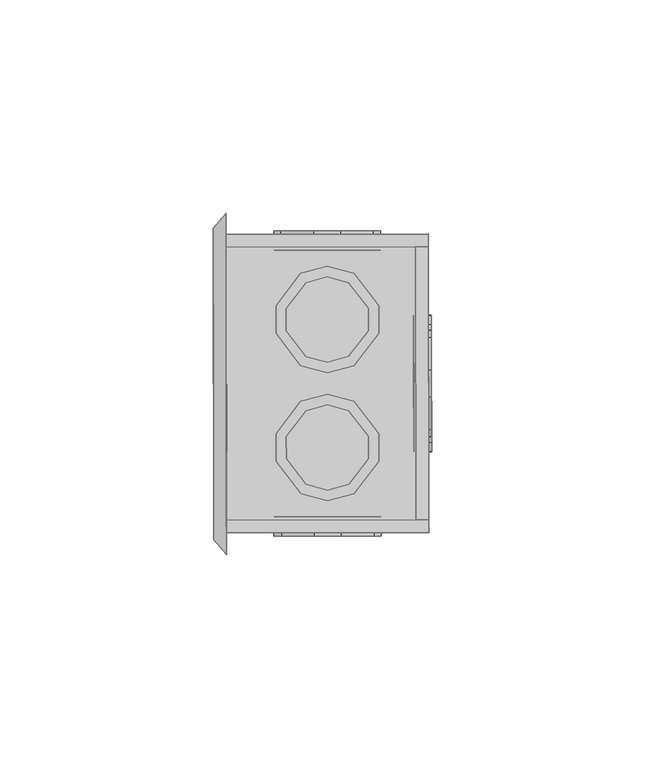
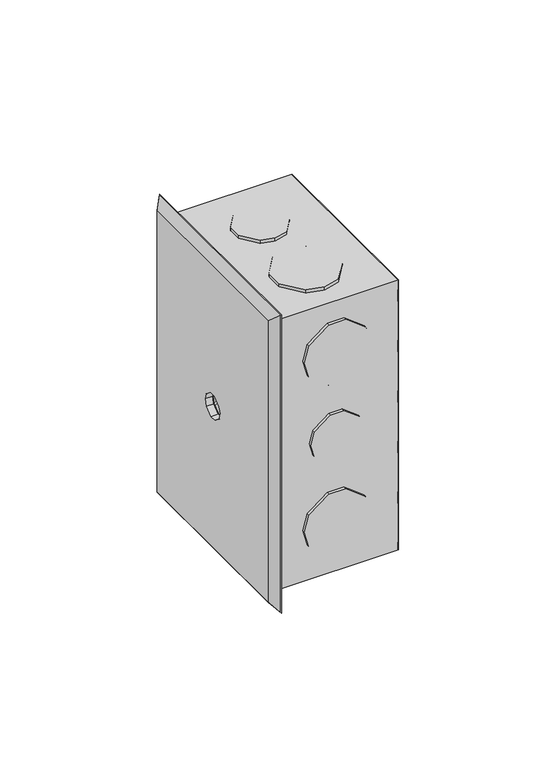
"""IFC4 building model written with IfcOpenShell, lengths in millimetres: proxy geometry,  211191 :  211191."""

from ifc_helpers import new_model, si_unit, origin, place, context, project, spatial, triangles, source, transform, mapped, element, save


def generic_models_196c6b88(model_context):
    return source(origin(), model_context, "Body", "Tessellation", [
        triangles([(14634.9555359, 33573.0670166, 1749.1000683), (14629.9535156, 33574.3994934, 1749.1000683), (14639.6285065, 33561.8235168, 1749.1000683), (14639.6226929, 33566.9999451, 1749.1000683), (14634.9776276, 33555.7471436, 1749.1000683), (14629.9802582, 33554.4007141, 1749.1000683), (14624.9549835, 33573.053064, 1749.1000683), (14620.3041046, 33566.9766907, 1749.1000683), (14620.3110809, 33561.797937, 1749.1000683), (14624.9782379, 33555.7331909, 1749.1000683), (14636.191507, 33583.5826538, 1749.1000683), (14636.162439, 33605.2324951, 1749.1000683), (14623.6922699, 33583.5663757, 1749.1000683), (14641.9969666, 33597.6515625, 1749.1000683), (14642.0062683, 33591.1798645, 1749.1000683), (14629.910495, 33606.8998352, 1749.1000683), (14623.6632019, 33605.216217, 1749.1000683), (14617.8484406, 33597.6190063, 1749.1000683), (14629.9442139, 33581.8990356, 1749.1000683), (14617.8577423, 33591.1496338, 1749.1000683), (14629.9802582, 33554.4007141, 1744.8000401), (14620.3041046, 33566.9766907, 1744.8000401), (14629.9535156, 33574.3994934, 1744.8000401), (14620.3110809, 33561.797937, 1744.8000401), (14624.9782379, 33555.7331909, 1744.8000401), (14624.9549835, 33573.053064, 1744.8000401), (14634.9555359, 33573.0670166, 1744.8000401), (14639.6226929, 33566.9999451, 1744.8000401), (14639.6285065, 33561.8235168, 1744.8000401), (14634.9776276, 33555.7471436, 1744.8000401), (14636.162439, 33605.2324951, 1744.8000401), (14623.6922699, 33583.5663757, 1744.8000401), (14617.8484406, 33597.6190063, 1744.8000401), (14617.8577423, 33591.1496338, 1744.8000401), (14629.9442139, 33581.8990356, 1744.8000401), (14636.191507, 33583.5826538, 1744.8000401), (14623.6632019, 33605.216217, 1744.8000401), (14641.9969666, 33597.6515625, 1744.8000401), (14642.0062683, 33591.1798645, 1744.8000401), (14629.910495, 33606.8998352, 1744.8000401), (14636.2031342, 33575.2320007, 1855.1999874), (14629.9500275, 33576.8993408, 1855.1999874), (14642.036499, 33567.6510681, 1855.1999874), (14636.2310394, 33553.5821594, 1855.1999874), (14642.0446381, 33561.1816956, 1855.1999874), (14623.7027344, 33575.2180481, 1855.1999874), (14617.887973, 33567.618512, 1855.1999874), (14623.7306396, 33553.5658813, 1855.1999874), (14629.9825836, 33551.9008667, 1855.1999874), (14617.8972748, 33561.1491394, 1855.1999874), (14639.5901367, 33591.8240112, 1855.1999874), (14634.9160034, 33603.067511, 1855.1999874), (14624.915451, 33603.0535583, 1855.1999874), (14639.5831604, 33597.0004395, 1855.1999874), (14634.9392578, 33585.7453125, 1855.1999874), (14629.9407257, 33584.3988831, 1855.1999874), (14629.9139832, 33604.3999878, 1855.1999874), (14620.2645721, 33596.9748596, 1855.1999874), (14620.2715485, 33591.7984314, 1855.1999874), (14624.9387054, 33585.7336853, 1855.1999874), (14617.887973, 33567.618512, 1850.9999531), (14623.7027344, 33575.2180481, 1850.9999531), (14623.7306396, 33553.5658813, 1850.9999531), (14617.8972748, 33561.1491394, 1850.9999531), (14629.9825836, 33551.9008667, 1850.9999531), (14636.2310394, 33553.5821594, 1850.9999531), (14629.9500275, 33576.8993408, 1850.9999531), (14636.2031342, 33575.2320007, 1850.9999531), (14642.036499, 33567.6510681, 1850.9999531), (14642.0446381, 33561.1816956, 1850.9999531), (14639.5901367, 33591.8240112, 1850.9999531), (14620.2715485, 33591.7984314, 1850.9999531), (14620.2645721, 33596.9748596, 1850.9999531), (14624.9387054, 33585.7336853, 1850.9999531), (14629.9407257, 33584.3988831, 1850.9999531), (14624.915451, 33603.0535583, 1850.9999531), (14634.9160034, 33603.067511, 1850.9999531), (14634.9392578, 33585.7453125, 1850.9999531), (14639.5831604, 33597.0004395, 1850.9999531), (14629.9139832, 33604.3999878, 1850.9999531), (14633.1358795, 33615.2039795, 1846.0739456), (14640.7261139, 33615.2132812, 1840.2500278), (14626.6653442, 33615.1970032, 1846.0739456), (14633.1358795, 33615.2039795, 1821.926001), (14619.0751099, 33615.185376, 1840.2500278), (14617.3996307, 33615.1830505, 1833.9999733), (14642.4004303, 33615.2156067, 1833.9999733), (14640.7261139, 33615.2132812, 1827.7500641), (14619.0751099, 33615.185376, 1827.7500641), (14626.6653442, 33615.1970032, 1821.926001), (14619.8994781, 33615.1877014, 1800.0000137), (14632.4882446, 33615.2039795, 1809.6590172), (14639.8994202, 33615.2132812, 1800.0000137), (14627.3118164, 33615.1970032, 1809.6590172), (14621.240094, 33615.1900269, 1804.9999992), (14638.5611298, 33615.2109558, 1804.9999992), (14638.5611298, 33615.2109558, 1795.0000282), (14632.4882446, 33615.2039795, 1790.3410103), (14621.240094, 33615.1900269, 1795.0000282), (14627.3118164, 33615.1970032, 1790.3410103), (14619.0751099, 33615.185376, 1772.2499634), (14633.1358795, 33615.2039795, 1778.0740265), (14642.4004303, 33615.2156067, 1766.0000542), (14626.6653442, 33615.1970032, 1778.0740265), (14617.3996307, 33615.1830505, 1766.0000542), (14619.0751099, 33615.185376, 1759.7499996), (14640.7261139, 33615.2132812, 1772.2499634), (14640.7261139, 33615.2132812, 1759.7499996), (14626.6653442, 33615.1970032, 1753.9259365), (14633.1358795, 33615.2039795, 1753.9259365), (14640.7319275, 33610.613562, 1827.7500641), (14642.4062439, 33610.6158875, 1833.9999733), (14633.1416931, 33610.6042603, 1821.926001), (14619.0809235, 33610.5856567, 1827.7500641), (14626.6711578, 33610.5949585, 1821.926001), (14617.4054443, 33610.5833313, 1833.9999733), (14626.6711578, 33610.5949585, 1846.0739456), (14640.7319275, 33610.613562, 1840.2500278), (14633.1416931, 33610.6042603, 1846.0739456), (14619.0809235, 33610.5856567, 1840.2500278), (14638.5669434, 33610.6112366, 1795.0000282), (14639.9063965, 33610.613562, 1800.0000137), (14621.2459076, 33610.5879822, 1795.0000282), (14632.4940582, 33610.6019348, 1790.3410103), (14627.31763, 33610.5972839, 1790.3410103), (14619.9064545, 33610.5879822, 1800.0000137), (14632.4940582, 33610.6019348, 1809.6590172), (14627.31763, 33610.5972839, 1809.6590172), (14621.2459076, 33610.5879822, 1804.9999992), (14638.5669434, 33610.6112366, 1804.9999992), (14640.7319275, 33610.613562, 1759.7499996), (14642.4062439, 33610.6158875, 1766.0000542), (14619.0809235, 33610.5856567, 1759.7499996), (14626.6711578, 33610.5949585, 1753.9259365), (14633.1416931, 33610.6042603, 1753.9259365), (14640.7319275, 33610.613562, 1772.2499634), (14619.0809235, 33610.5856567, 1772.2499634), (14633.1416931, 33610.6042603, 1778.0740265), (14617.4054443, 33610.5833313, 1766.0000542), (14626.6711578, 33610.5949585, 1778.0740265), (14633.2288971, 33543.6036987, 1821.926001), (14640.8191315, 33543.6130005, 1827.7500641), (14626.7595245, 33543.5967224, 1821.926001), (14633.2288971, 33543.6036987, 1846.0739456), (14619.1692902, 33543.5850952, 1827.7500641), (14617.493811, 33543.5850952, 1833.9999733), (14642.4934479, 33543.6153259, 1833.9999733), (14640.8191315, 33543.6130005, 1840.2500278), (14619.1692902, 33543.5850952, 1840.2500278), (14626.7595245, 33543.5967224, 1846.0739456), (14619.9936584, 33543.5874207, 1800.0000137), (14632.5824249, 33543.6036987, 1790.3410103), (14632.5824249, 33543.6036987, 1809.6590172), (14621.3342743, 33543.5897461, 1795.0000282), (14627.4059967, 33543.5967224, 1790.3410103), (14638.6541473, 33543.610675, 1795.0000282), (14639.9936005, 33543.6130005, 1800.0000137), (14638.6541473, 33543.610675, 1804.9999992), (14627.4059967, 33543.5967224, 1809.6590172), (14621.3342743, 33543.5897461, 1804.9999992), (14633.2288971, 33543.6036987, 1753.9259365), (14640.8191315, 33543.6130005, 1759.7499996), (14626.7595245, 33543.5967224, 1753.9259365), (14617.493811, 33543.5850952, 1766.0000542), (14619.1692902, 33543.5850952, 1759.7499996), (14619.1692902, 33543.5850952, 1772.2499634), (14640.8191315, 33543.6130005, 1772.2499634), (14633.2288971, 33543.6036987, 1778.0740265), (14626.7595245, 33543.5967224, 1778.0740265), (14642.4934479, 33543.6153259, 1766.0000542), (14640.8133179, 33548.2150452, 1840.2500278), (14642.4876343, 33548.2150452, 1833.9999733), (14633.2230835, 33548.203418, 1846.0739456), (14619.1634766, 33548.1871399, 1840.2500278), (14626.7525482, 33548.1964417, 1846.0739456), (14617.4879974, 33548.1848145, 1833.9999733), (14626.7525482, 33548.1964417, 1821.926001), (14640.8133179, 33548.2150452, 1827.7500641), (14633.2230835, 33548.203418, 1821.926001), (14619.1634766, 33548.1871399, 1827.7500641), (14632.5754486, 33548.203418, 1809.6590172), (14638.6483337, 33548.2103943, 1804.9999992), (14632.5754486, 33548.203418, 1790.3410103), (14627.4001831, 33548.1964417, 1809.6590172), (14619.9878448, 33548.1871399, 1800.0000137), (14621.3284607, 33548.1894653, 1804.9999992), (14639.9877869, 33548.2127197, 1800.0000137), (14621.3284607, 33548.1894653, 1795.0000282), (14627.4001831, 33548.1964417, 1790.3410103), (14638.6483337, 33548.2103943, 1795.0000282), (14633.2230835, 33548.203418, 1778.0740265), (14640.8133179, 33548.2150452, 1772.2499634), (14626.7525482, 33548.1964417, 1753.9259365), (14619.1634766, 33548.1871399, 1772.2499634), (14626.7525482, 33548.1964417, 1778.0740265), (14640.8133179, 33548.2150452, 1759.7499996), (14642.4876343, 33548.2150452, 1766.0000542), (14633.2230835, 33548.203418, 1753.9259365), (14617.4879974, 33548.1848145, 1766.0000542), (14619.1634766, 33548.1871399, 1759.7499996), (14654.3834198, 33590.256665, 1827.7500641), (14654.3810944, 33591.9309814, 1833.9999733), (14654.3927216, 33582.6664307, 1821.926001), (14654.4113251, 33568.6068237, 1827.7500641), (14654.4008606, 33576.1970581, 1821.926001), (14654.3834198, 33590.256665, 1840.2500278), (14654.3927216, 33582.6664307, 1846.0739456), (14654.4008606, 33576.1970581, 1846.0739456), (14654.4124878, 33566.9325073, 1833.9999733), (14654.4113251, 33568.6068237, 1840.2500278), (14654.3787689, 33593.2890381, 1792.000066), (14654.3764435, 33595.4330933, 1800.0000137), (14654.3915588, 33583.5733521, 1784.5449978), (14654.4148132, 33565.5767761, 1792.000066), (14654.4020233, 33575.2901367, 1784.5449978), (14654.3787689, 33593.2890381, 1807.9999615), (14654.3915588, 33583.5733521, 1815.4550297), (14654.4020233, 33575.2901367, 1815.4550297), (14654.4183014, 33563.4327209, 1800.0000137), (14654.4148132, 33565.5767761, 1807.9999615), (14654.3834198, 33590.256665, 1759.7499996), (14654.3810944, 33591.9309814, 1766.0000542), (14654.4008606, 33576.1970581, 1753.9259365), (14654.3927216, 33582.6664307, 1753.9259365), (14654.4113251, 33568.6068237, 1759.7499996), (14654.4124878, 33566.9325073, 1766.0000542), (14654.4008606, 33576.1970581, 1778.0740265), (14654.3927216, 33582.6664307, 1778.0740265), (14654.4113251, 33568.6068237, 1772.2499634), (14654.3834198, 33590.256665, 1772.2499634), (14650.1929779, 33582.6617798, 1846.0739456), (14650.1825134, 33590.2520142, 1840.2500278), (14650.2011169, 33576.1900818, 1846.0739456), (14650.2104187, 33568.5998474, 1827.7500641), (14650.2104187, 33568.5998474, 1840.2500278), (14650.2127441, 33566.925531, 1833.9999733), (14650.1813507, 33591.9263306, 1833.9999733), (14650.1825134, 33590.2520142, 1827.7500641), (14650.1929779, 33582.6617798, 1821.926001), (14650.2011169, 33576.1900818, 1821.926001), (14650.1918152, 33583.5687012, 1815.4550297), (14650.1790253, 33593.2820618, 1807.9999615), (14650.2185577, 33563.4257446, 1800.0000137), (14650.2022797, 33575.2854858, 1815.4550297), (14650.2150696, 33565.5697998, 1807.9999615), (14650.1755371, 33595.4261169, 1800.0000137), (14650.1790253, 33593.2820618, 1792.000066), (14650.1918152, 33583.5687012, 1784.5449978), (14650.2150696, 33565.5697998, 1792.000066), (14650.2022797, 33575.2854858, 1784.5449978), (14650.1813507, 33591.9263306, 1766.0000542), (14650.2011169, 33576.1900818, 1778.0740265), (14650.1929779, 33582.6617798, 1778.0740265), (14650.2127441, 33566.925531, 1766.0000542), (14650.2104187, 33568.5998474, 1772.2499634), (14650.2011169, 33576.1900818, 1753.9259365), (14650.1825134, 33590.2520142, 1772.2499634), (14650.1825134, 33590.2520142, 1759.7499996), (14650.1929779, 33582.6617798, 1753.9259365), (14650.2104187, 33568.5998474, 1759.7499996), (14654.3845825, 33588.4311951, 1788.2729679), (14650.1848389, 33588.4242187, 1788.2729679), (14650.209256, 33570.4276428, 1788.2729679), (14654.4171387, 33564.5047485, 1795.9999672), (14650.217395, 33564.4977722, 1795.9999672), (14654.4089996, 33570.4322937, 1788.2729679), (14650.1964661, 33579.4270935, 1784.5449978), (14650.1778625, 33594.309906, 1795.8319542), (14654.3776062, 33594.3610657, 1795.9999672), (14654.3973724, 33579.4317444, 1784.5449978), (14654.4089996, 33570.4322937, 1811.7270596), (14650.209256, 33570.4276428, 1811.7270596), (14650.1848389, 33588.4242187, 1811.7270596), (14654.3776062, 33594.3610657, 1804.0000603), (14650.1778625, 33594.3540894, 1804.0000603), (14654.3845825, 33588.4311951, 1811.7270596), (14650.1964661, 33579.4270935, 1815.4550297), (14650.2162323, 33564.5419556, 1804.1679279), (14654.4171387, 33564.5047485, 1804.0000603), (14654.3973724, 33579.4317444, 1815.4550297), (14653.6555573, 33611.4321167, 1748.7499443), (14653.6555573, 33611.4321167, 1851.2499378), (14653.7392731, 33547.4313721, 1851.2499378), (14653.7392731, 33547.4313721, 1748.7499443), (14650.7394562, 33547.4267212, 1748.7499443), (14650.7394562, 33547.4267212, 1851.2499378), (14650.6545776, 33611.4274658, 1851.2499378), (14650.6545776, 33611.4274658, 1748.7499443), (14653.6509064, 33614.4319336, 1854.2500454), (14653.6509064, 33614.4319336, 1745.7499821), (14653.7427612, 33544.4315552, 1854.2500454), (14653.7427612, 33544.4315552, 1745.7499821), (14606.243335, 33544.3687683, 1854.2500454), (14606.2386841, 33547.3685852, 1851.2499378), (14606.2386841, 33547.3685852, 1748.7499443), (14606.1549683, 33611.3693298, 1851.2499378), (14606.243335, 33544.3687683, 1745.7499821), (14606.1549683, 33611.3693298, 1748.7499443), (14606.1514801, 33614.3691467, 1854.2500454), (14606.1514801, 33614.3691467, 1745.7499821), (14603.2446808, 33542.7386353, 1856.5000534), (14603.1993347, 33577.9457886, 1804.8299515), (14603.2028229, 33574.9087646, 1802.5000065), (14603.1958466, 33580.5340027, 1804.8299515), (14603.2039856, 33574.2390381, 1800.0000137), (14603.2446808, 33542.7386353, 1743.4999741), (14603.2028229, 33574.9087646, 1797.500021), (14603.1993347, 33577.9457886, 1795.1699306), (14603.1958466, 33580.5340027, 1795.1699306), (14603.1505005, 33615.7388306, 1856.5000534), (14603.1923584, 33583.5687012, 1802.5000065), (14603.1911957, 33584.2384277, 1800.0000137), (14603.1923584, 33583.5687012, 1797.500021), (14603.1505005, 33615.7388306, 1743.4999741), (14606.2491486, 33539.2783813, 1740.0359413), (14606.1991516, 33577.948114, 1795.1699306), (14606.2026398, 33574.9134155, 1797.500021), (14606.1956635, 33580.5363281, 1795.1699306), (14606.2038025, 33574.243689, 1800.0000137), (14606.2491486, 33539.2783813, 1860.0360294), (14606.2026398, 33574.9134155, 1802.5000065), (14606.1991516, 33577.948114, 1804.8299515), (14606.1956635, 33580.5363281, 1804.8299515), (14606.1445038, 33619.2781494, 1740.0359413), (14606.1921753, 33583.5733521, 1797.500021), (14606.1910126, 33584.2430786, 1800.0000137), (14606.1921753, 33583.5733521, 1802.5000065), (14606.1445038, 33619.2781494, 1860.0360294)], [[3, 1, 2], [1, 3, 4], [6, 5, 3], [3, 2, 7], [7, 8, 9], [6, 9, 10], [7, 9, 6], [7, 6, 3], [11, 12, 13], [14, 11, 15], [11, 14, 12], [12, 16, 17], [13, 12, 18], [13, 19, 11], [13, 18, 20], [18, 12, 17], [21, 22, 23], [24, 21, 25], [21, 24, 22], [22, 26, 23], [23, 27, 28], [29, 30, 21], [29, 23, 28], [23, 29, 21], [31, 32, 33], [33, 32, 34], [36, 35, 32], [33, 37, 31], [31, 36, 32], [36, 38, 39], [31, 38, 36], [31, 37, 40], [5, 21, 30], [3, 30, 29], [21, 5, 6], [5, 30, 3], [29, 4, 3], [1, 28, 27], [2, 27, 23], [28, 1, 4], [1, 27, 2], [28, 4, 29], [7, 23, 26], [8, 26, 22], [23, 7, 2], [7, 26, 8], [22, 9, 8], [10, 24, 25], [6, 25, 21], [24, 10, 9], [10, 25, 6], [24, 9, 22], [19, 35, 36], [11, 36, 39], [11, 19, 36], [15, 11, 39], [39, 38, 15], [14, 38, 31], [12, 31, 40], [12, 14, 31], [16, 12, 40], [38, 14, 15], [37, 33, 17], [40, 37, 16], [37, 17, 16], [17, 33, 18], [33, 34, 18], [32, 35, 13], [34, 32, 20], [32, 13, 20], [13, 35, 19], [34, 20, 18], [43, 41, 42], [43, 44, 45], [44, 43, 42], [42, 46, 44], [46, 47, 48], [46, 48, 49], [48, 47, 50], [46, 49, 44], [51, 52, 53], [52, 51, 54], [56, 55, 51], [53, 52, 57], [51, 58, 59], [60, 56, 51], [51, 59, 60], [58, 51, 53], [63, 61, 62], [61, 63, 64], [66, 65, 63], [66, 63, 62], [67, 68, 69], [66, 69, 70], [67, 69, 66], [67, 66, 62], [71, 72, 73], [74, 71, 75], [72, 71, 74], [73, 76, 77], [77, 71, 73], [71, 78, 75], [71, 77, 79], [76, 80, 77], [44, 65, 66], [45, 66, 70], [65, 44, 49], [44, 66, 45], [70, 43, 45], [41, 69, 68], [42, 68, 67], [69, 41, 43], [41, 68, 42], [69, 43, 70], [46, 67, 62], [47, 62, 61], [67, 46, 42], [46, 62, 47], [61, 50, 47], [48, 64, 63], [49, 63, 65], [64, 48, 50], [48, 63, 49], [64, 50, 61], [78, 71, 51], [75, 78, 55], [75, 55, 56], [55, 78, 51], [71, 54, 51], [77, 80, 57], [79, 77, 52], [79, 52, 54], [52, 77, 57], [79, 54, 71], [53, 80, 76], [58, 76, 73], [53, 57, 80], [58, 53, 76], [73, 59, 58], [60, 72, 74], [56, 74, 75], [60, 59, 72], [56, 60, 74], [72, 59, 73], [83, 81, 82], [83, 84, 85], [84, 86, 85], [84, 83, 82], [87, 88, 84], [89, 84, 90], [84, 89, 86], [84, 82, 87], [91, 92, 93], [94, 91, 95], [91, 94, 92], [92, 96, 93], [93, 97, 98], [99, 98, 100], [98, 99, 91], [93, 98, 91], [101, 102, 103], [102, 101, 104], [106, 105, 101], [103, 102, 107], [103, 108, 106], [108, 109, 106], [109, 108, 110], [103, 106, 101], [113, 111, 112], [113, 114, 115], [116, 114, 113], [113, 112, 117], [118, 119, 117], [120, 116, 113], [113, 117, 120], [112, 118, 117], [123, 121, 122], [124, 123, 125], [123, 124, 121], [122, 126, 123], [122, 127, 126], [126, 128, 129], [127, 128, 126], [127, 122, 130], [133, 131, 132], [131, 134, 135], [133, 134, 131], [133, 132, 136], [138, 137, 133], [137, 139, 133], [137, 138, 140], [136, 138, 133], [118, 87, 82], [119, 82, 81], [87, 118, 112], [119, 118, 82], [81, 117, 119], [120, 83, 85], [116, 85, 86], [83, 120, 117], [120, 85, 116], [83, 117, 81], [114, 86, 89], [115, 89, 90], [86, 114, 116], [114, 89, 115], [90, 113, 115], [111, 84, 88], [112, 88, 87], [84, 111, 113], [112, 111, 88], [90, 84, 113], [96, 92, 130], [93, 96, 122], [96, 130, 122], [130, 92, 127], [127, 92, 94], [95, 91, 129], [94, 95, 128], [95, 129, 128], [129, 91, 126], [94, 128, 127], [126, 91, 99], [123, 99, 100], [99, 123, 126], [100, 125, 123], [100, 98, 125], [124, 98, 97], [121, 97, 93], [97, 121, 124], [93, 122, 121], [98, 124, 125], [107, 102, 136], [132, 103, 107], [107, 136, 132], [136, 102, 138], [138, 102, 104], [137, 101, 105], [104, 101, 140], [101, 137, 140], [137, 105, 139], [104, 140, 138], [139, 105, 106], [133, 106, 109], [133, 139, 106], [109, 134, 133], [109, 110, 134], [135, 110, 108], [131, 108, 103], [108, 131, 135], [132, 131, 103], [110, 135, 134], [143, 141, 142], [143, 144, 145], [144, 146, 145], [144, 143, 142], [147, 148, 144], [149, 144, 150], [144, 149, 146], [144, 142, 147], [151, 152, 153], [152, 154, 155], [151, 154, 152], [152, 156, 157], [152, 158, 153], [151, 159, 160], [151, 153, 159], [152, 157, 158], [163, 161, 162], [163, 164, 165], [166, 164, 163], [163, 162, 167], [168, 163, 167], [166, 168, 169], [168, 166, 163], [167, 162, 170], [173, 171, 172], [173, 174, 175], [176, 174, 173], [173, 172, 177], [178, 179, 177], [180, 176, 173], [173, 177, 180], [172, 178, 177], [181, 182, 183], [184, 185, 186], [181, 183, 184], [183, 182, 187], [183, 185, 184], [183, 188, 185], [188, 183, 189], [183, 187, 190], [191, 192, 193], [191, 194, 195], [193, 194, 191], [196, 192, 197], [196, 198, 193], [199, 193, 200], [193, 199, 194], [193, 192, 196], [174, 146, 149], [175, 149, 150], [146, 174, 176], [175, 174, 149], [150, 173, 175], [171, 144, 148], [172, 148, 147], [144, 171, 173], [171, 148, 172], [144, 173, 150], [178, 147, 142], [179, 142, 141], [147, 178, 172], [178, 142, 179], [141, 177, 179], [180, 143, 145], [176, 145, 146], [143, 180, 177], [176, 180, 145], [141, 143, 177], [185, 151, 160], [186, 160, 159], [186, 185, 160], [184, 186, 159], [184, 159, 153], [181, 153, 158], [182, 158, 157], [182, 181, 158], [187, 182, 157], [153, 181, 184], [190, 156, 152], [187, 157, 156], [156, 190, 187], [190, 152, 183], [152, 155, 183], [188, 154, 151], [189, 155, 154], [154, 188, 189], [188, 151, 185], [155, 189, 183], [199, 164, 166], [194, 166, 169], [166, 194, 199], [195, 194, 169], [195, 169, 168], [191, 168, 167], [192, 167, 170], [192, 191, 167], [170, 197, 192], [168, 191, 195], [196, 162, 161], [170, 162, 197], [162, 196, 197], [196, 161, 198], [161, 163, 198], [165, 164, 200], [193, 163, 165], [165, 200, 193], [200, 164, 199], [163, 193, 198], [203, 201, 202], [203, 204, 205], [204, 203, 202], [202, 206, 204], [206, 207, 208], [209, 208, 210], [206, 208, 209], [206, 209, 204], [213, 211, 212], [213, 214, 215], [214, 213, 212], [212, 216, 214], [216, 217, 218], [219, 218, 220], [218, 219, 214], [218, 214, 216], [223, 221, 222], [221, 223, 224], [226, 225, 223], [223, 222, 227], [227, 222, 228], [226, 227, 229], [227, 226, 223], [228, 222, 230], [233, 231, 232], [233, 234, 235], [234, 236, 235], [237, 233, 232], [237, 238, 234], [234, 239, 240], [238, 239, 234], [237, 234, 233], [243, 241, 242], [244, 243, 245], [243, 244, 241], [242, 246, 243], [246, 247, 248], [249, 248, 250], [248, 249, 243], [248, 243, 246], [251, 252, 253], [252, 254, 255], [256, 254, 252], [253, 257, 251], [251, 258, 259], [256, 260, 254], [256, 251, 259], [256, 252, 251], [204, 236, 234], [205, 234, 240], [236, 204, 209], [205, 204, 234], [240, 203, 205], [201, 239, 238], [202, 238, 237], [239, 201, 203], [201, 238, 202], [239, 203, 240], [206, 237, 232], [207, 232, 231], [237, 206, 202], [207, 206, 232], [231, 208, 207], [210, 233, 235], [209, 235, 236], [233, 210, 208], [210, 235, 209], [233, 208, 231], [261, 248, 262], [262, 247, 211], [215, 263, 250], [243, 264, 219], [265, 214, 264], [266, 249, 263], [265, 249, 214], [264, 243, 265], [213, 267, 248], [249, 266, 214], [215, 266, 263], [211, 268, 269], [248, 261, 213], [262, 211, 261], [246, 269, 268], [268, 211, 247], [270, 215, 250], [246, 212, 269], [270, 250, 267], [267, 213, 270], [271, 244, 272], [272, 245, 220], [217, 273, 241], [246, 274, 212], [275, 216, 274], [276, 242, 273], [275, 242, 216], [274, 246, 275], [218, 277, 244], [242, 276, 216], [217, 276, 273], [220, 278, 279], [244, 271, 218], [272, 220, 271], [243, 279, 278], [278, 220, 245], [280, 217, 241], [243, 219, 279], [280, 241, 277], [277, 218, 280], [260, 256, 223], [254, 260, 225], [254, 225, 226], [223, 225, 260], [256, 224, 223], [258, 251, 222], [259, 258, 221], [259, 221, 224], [221, 258, 222], [259, 224, 256], [230, 251, 257], [228, 257, 253], [230, 222, 251], [228, 230, 257], [253, 227, 228], [229, 252, 255], [226, 255, 254], [229, 227, 252], [226, 229, 255], [252, 227, 253], [281, 282, 283], [283, 284, 281], [285, 286, 287], [287, 288, 285], [283, 282, 287], [287, 286, 283], [284, 283, 286], [286, 285, 284], [281, 284, 285], [285, 288, 281], [282, 281, 288], [288, 287, 282], [289, 282, 281], [283, 282, 289], [290, 281, 284], [289, 281, 290], [284, 283, 291], [291, 283, 289], [290, 284, 292], [292, 284, 291], [293, 294, 295], [296, 294, 293], [297, 295, 298], [293, 295, 297], [298, 296, 299], [299, 296, 293], [297, 298, 300], [300, 298, 299], [291, 289, 299], [299, 293, 291], [292, 291, 293], [293, 297, 292], [290, 292, 297], [297, 300, 290], [289, 290, 300], [300, 299, 289], [284, 281, 298], [298, 295, 284], [283, 284, 295], [295, 294, 283], [296, 282, 283], [283, 294, 296], [281, 282, 296], [296, 298, 281], [301, 302, 303], [304, 302, 301], [301, 303, 305], [306, 305, 307], [301, 305, 306], [307, 308, 306], [306, 308, 309], [311, 304, 310], [310, 304, 301], [312, 311, 310], [314, 309, 313], [312, 314, 313], [314, 312, 310], [309, 314, 306], [315, 316, 317], [318, 316, 315], [315, 317, 319], [320, 319, 321], [315, 319, 320], [321, 322, 320], [320, 322, 323], [325, 318, 324], [324, 318, 315], [326, 325, 324], [328, 323, 327], [326, 328, 327], [328, 326, 324], [323, 328, 320], [310, 301, 320], [328, 310, 320], [324, 310, 328], [324, 314, 310], [315, 314, 324], [315, 306, 314], [301, 306, 315], [320, 301, 315], [325, 326, 313], [309, 318, 325], [312, 313, 326], [309, 325, 313], [318, 309, 308], [307, 317, 316], [319, 317, 305], [316, 308, 307], [305, 317, 307], [318, 308, 316], [303, 321, 319], [322, 321, 302], [319, 305, 303], [302, 321, 303], [302, 304, 322], [327, 323, 311], [312, 326, 327], [304, 311, 323], [312, 327, 311], [322, 304, 323]], closed=False),
    ])


if __name__ == "__main__":
    model = new_model("IFC4")
    model_context = context("Model", 3, world=origin())
    ifc_project = project(units=[si_unit("LENGTHUNIT", "METRE", prefix="MILLI")], contexts=[model_context])
    site = spatial("IfcSite", under=ifc_project)
    building = spatial("IfcBuilding", under=site)
    placement = place(None, origin())
    generic_models_shape = generic_models_196c6b88(model_context)
    element("IfcBuildingElementProxy", 1, Name=" 211191 :  211191", ObjectType=" 211191 :  211191", at=placement, inside=building, context=model_context, shape_type="MappedRepresentation", body=[
        mapped(generic_models_shape, transform((0.0, 0.0, 0.0), x_axis=(1.0, 0.0, 0.0), y_axis=(0.0, 1.0, 0.0), z_axis=(0.0, 0.0, 1.0))),
    ])
    save(model, "model.ifc")
